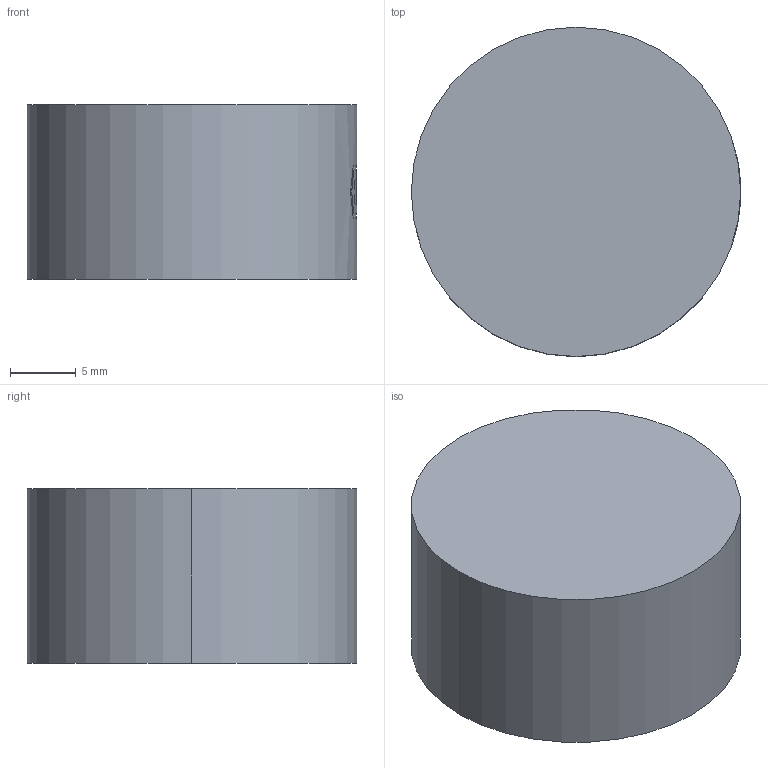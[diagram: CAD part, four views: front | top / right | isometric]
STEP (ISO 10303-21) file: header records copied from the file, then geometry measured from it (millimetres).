
FILE_DESCRIPTION (( 'STEP AP203' ), '1' );
FILE_NAME ('WJ-DM 32 STO.STEP', '2007-03-02T08:13:45', ( ' ' ), ( '' ), 'SwSTEP 2.0', 'SolidWorks 2005278', '' );
FILE_SCHEMA (( 'CONFIG_CONTROL_DESIGN' ));
Length unit declared in the file: millimetre
Products named in the file (1): WJ-DM 32 STO
Bounding box: 25.1 x 25.1 x 13.31 mm (x, y, z)
Volume: 6000.9 mm3; surface area: 2163 mm2
Topology: 1 solids, 1 shells, 56 faces, 143 edges, 94 vertices
Faces by surface type: plane 40, cylinder 14, cone 2
Entity records: 1804 total; most frequent: CARTESIAN_POINT 354, DIRECTION 289, ORIENTED_EDGE 286, EDGE_CURVE 143, AXIS2_PLACEMENT_3D 109, VERTEX_POINT 94, VECTOR 71, LINE 71
